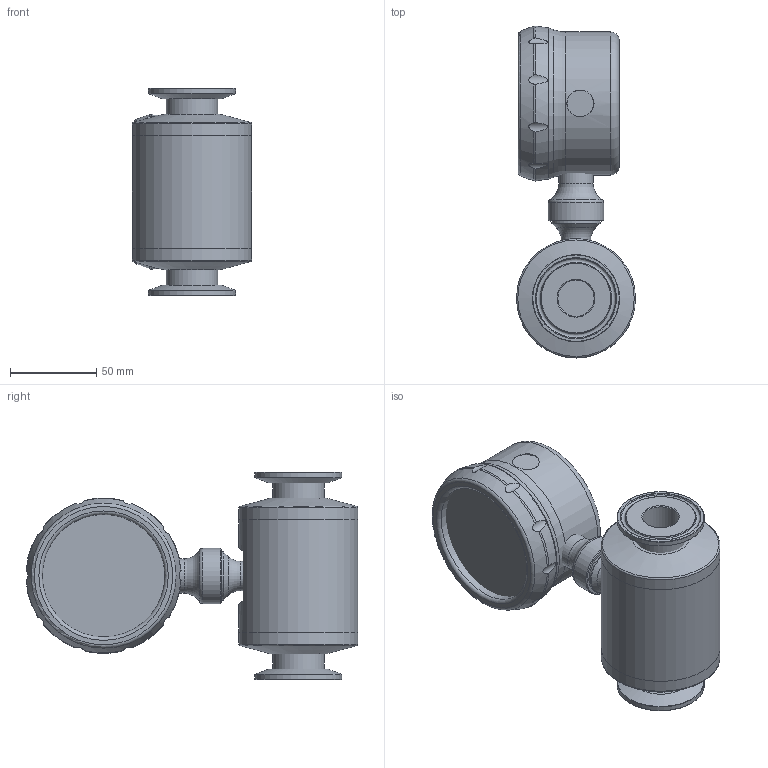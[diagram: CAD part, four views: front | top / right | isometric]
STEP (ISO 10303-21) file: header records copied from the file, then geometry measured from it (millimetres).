
FILE_DESCRIPTION( (''), '2;1');
FILE_NAME( 'QMKD_DN15_H50.5_tri-clamp.step', '2024-08-30T08:49:26+08:00', (''), (''), '', '', '');
FILE_SCHEMA (('AUTOMOTIVE_DESIGN { 1 0 10303 214 3 1 1 1 }'));
Length unit declared in the file: millimetre
Products named in the file (1): QMKD DN15_H50.5_tri-clamp
Bounding box: 69 x 192.31 x 120 mm (x, y, z)
Volume: 699224.8 mm3; surface area: 114812.7 mm2
Topology: 10 solids, 10 shells, 136 faces, 293 edges, 191 vertices
Faces by surface type: cylinder 43, plane 39, torus 30, cone 20, bspline 4
Full cylindrical faces by diameter (mm): 15 x2, 15.5 x1, 17 x1, 20 x1, 21 x2, 26 x1, 28 x1, 30 x2, 32 x1, 50.5 x2, 60 x2, 69 x3, 71 x1, 80 x2, 82 x5, 83 x1
Entity records: 5993 total; most frequent: CARTESIAN_POINT 3516, DIRECTION 498, ORIENTED_EDGE 382, AXIS2_PLACEMENT_3D 242, EDGE_LOOP 211, EDGE_CURVE 191, FACE_BOUND 158, VERTEX_POINT 154
